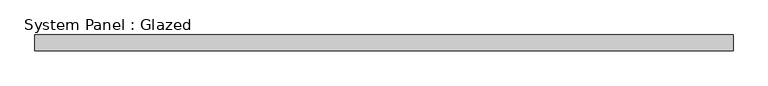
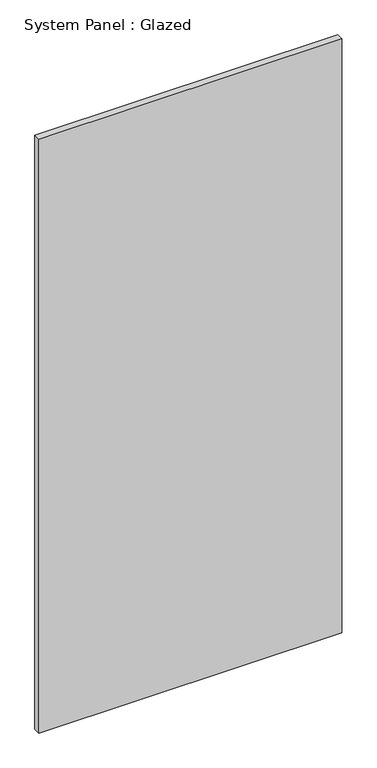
"""IFC4 building model written with IfcOpenShell, lengths in millimetres: plate geometry, System Panel : Glazed."""

from ifc_helpers import new_model, si_unit, origin, origin_with_axes, place, context, project, spatial, polyline, outline, extrude, source, transform, mapped, element, save


def system_panel_glazed_a5fae1e5(model_context):
    return source(origin(), model_context, "Body", "SweptSolid", [
        extrude(outline(polyline([(565.15, 19.05), (-565.15, 19.05), (-565.15, 44.45), (565.15, 44.45), (565.15, 19.05)])), origin_with_axes(), (0.0, 0.0, 1.0), 2343.15),
    ])


if __name__ == "__main__":
    model = new_model("IFC4")
    model_context = context("Model", 3, world=origin())
    ifc_project = project(units=[si_unit("LENGTHUNIT", "METRE", prefix="MILLI")], contexts=[model_context])
    site = spatial("IfcSite", under=ifc_project)
    building = spatial("IfcBuilding", under=site)
    placement = place(None, origin())
    system_panel_glazed_shape = system_panel_glazed_a5fae1e5(model_context)
    element("IfcPlate", 1, ObjectType="System Panel : Glazed", at=placement, inside=building, context=model_context, shape_type="MappedRepresentation", body=[
        mapped(system_panel_glazed_shape, transform((0.0, 0.0, 0.0), x_axis=(1.0, 0.0, 0.0), y_axis=(0.0, 1.0, 0.0), z_axis=(0.0, 0.0, 1.0))),
    ])
    save(model, "model.ifc")
